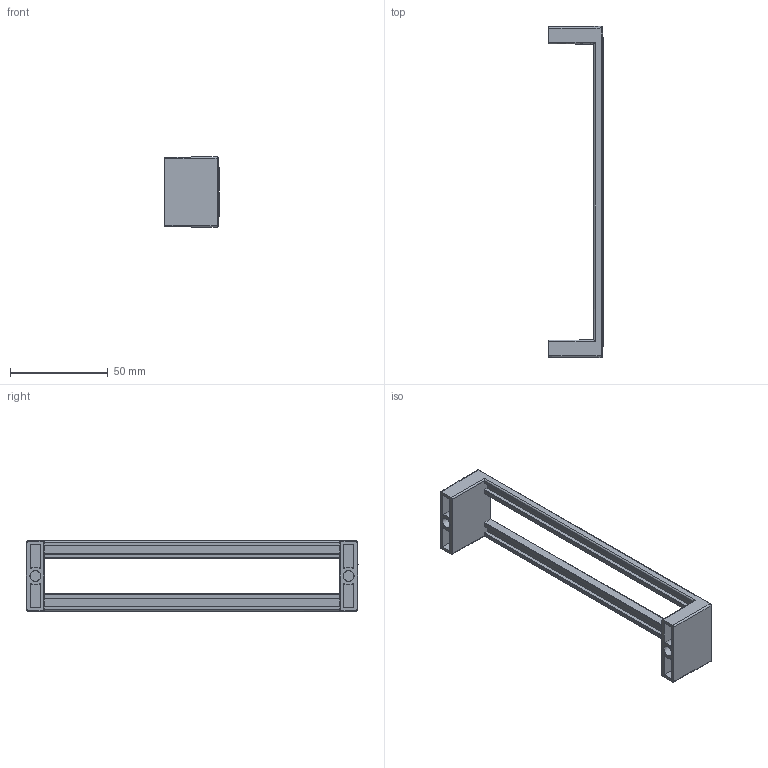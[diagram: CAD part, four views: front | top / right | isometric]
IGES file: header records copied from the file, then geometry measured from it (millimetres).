
Start section: C
Global section: file name: 8242-169.igs; native system: By Siemens PLM Incorporated; preprocessor: XPlus GENERIC/IGES 16.0.42; author: Author; organization: Title; date: 20200906.084211; units: millimetre
Bounding box: 27.92 x 169.56 x 35.98 mm (x, y, z)
Surface area: 19265.7 mm2 (no closed solid volume)
Topology: 0 solids, 0 shells, 104 faces, 576 edges, 572 vertices
Faces by surface type: bspline 104
